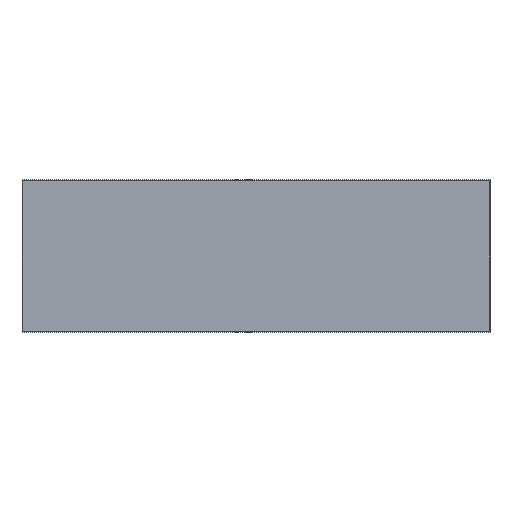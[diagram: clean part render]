
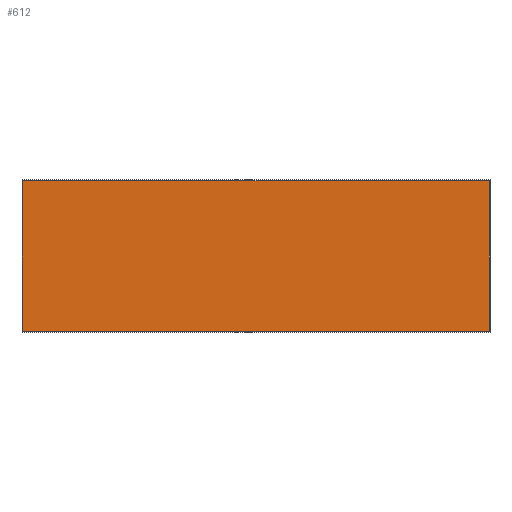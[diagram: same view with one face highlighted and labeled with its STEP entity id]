
A CAD part, top view. The second image highlights one B-rep face of the part: STEP entity #612.
In plain terms, the highlighted planar face has unit normal (0, 0, 1).
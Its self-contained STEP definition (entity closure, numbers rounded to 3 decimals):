
#362=DIRECTION('',(-1.,0.,0.));
#363=VECTOR('',#362,479.);
#364=CARTESIAN_POINT('',(239.5,77.5,3.));
#365=LINE('',#364,#363);
#369=DIRECTION('',(0.,1.,0.));
#370=VECTOR('',#369,155.);
#371=CARTESIAN_POINT('',(239.5,-77.5,3.));
#372=LINE('',#371,#370);
#376=DIRECTION('',(1.,0.,0.));
#377=VECTOR('',#376,479.);
#378=CARTESIAN_POINT('',(-239.5,-77.5,3.));
#379=LINE('',#378,#377);
#383=DIRECTION('',(0.,-1.,0.));
#384=VECTOR('',#383,155.);
#385=CARTESIAN_POINT('',(-239.5,77.5,3.));
#386=LINE('',#385,#384);
#401=CARTESIAN_POINT('',(239.5,77.5,3.));
#402=CARTESIAN_POINT('',(-239.5,77.5,3.));
#403=VERTEX_POINT('',#401);
#404=VERTEX_POINT('',#402);
#425=CARTESIAN_POINT('',(-239.5,-77.5,3.));
#426=CARTESIAN_POINT('',(239.5,-77.5,3.));
#427=VERTEX_POINT('',#425);
#428=VERTEX_POINT('',#426);
#600=CARTESIAN_POINT('',(0.,0.,3.));
#601=DIRECTION('',(0.,0.,1.));
#602=DIRECTION('',(1.,0.,0.));
#603=AXIS2_PLACEMENT_3D('',#600,#601,#602);
#604=PLANE('',#603);
#605=ORIENTED_EDGE('',*,*,#483,.F.);
#606=ORIENTED_EDGE('',*,*,#499,.F.);
#608=ORIENTED_EDGE('',*,*,#607,.F.);
#609=ORIENTED_EDGE('',*,*,#593,.F.);
#610=EDGE_LOOP('',(#605,#606,#608,#609));
#611=FACE_OUTER_BOUND('',#610,.F.);
#483=EDGE_CURVE('',#403,#404,#365,.T.);
#499=EDGE_CURVE('',#428,#403,#372,.T.);
#593=EDGE_CURVE('',#404,#427,#386,.T.);
#607=EDGE_CURVE('',#427,#428,#379,.T.);
#612=ADVANCED_FACE('',(#611),#604,.T.);
